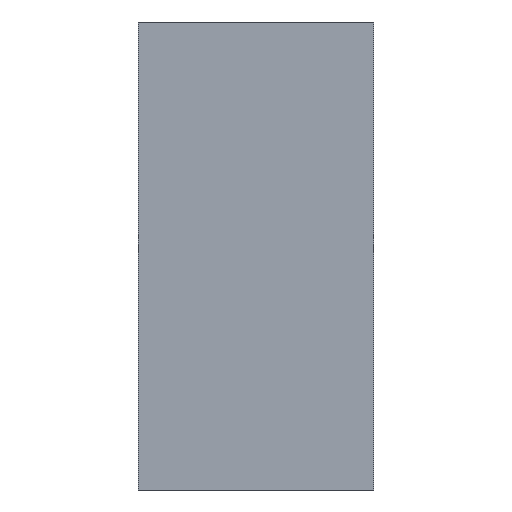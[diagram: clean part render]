
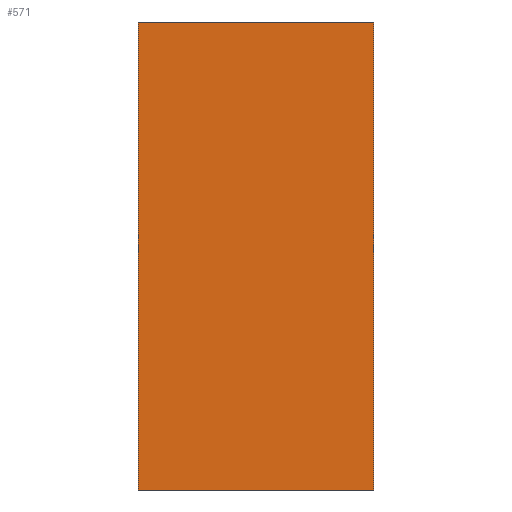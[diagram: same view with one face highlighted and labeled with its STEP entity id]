
A CAD part, left-side view. The second image highlights one B-rep face of the part: STEP entity #571.
In plain terms, the highlighted planar face has unit normal (-1, 0, 0).
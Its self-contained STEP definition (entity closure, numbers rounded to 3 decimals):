
#31=FACE_OUTER_BOUND('',#63,.T.);
#63=EDGE_LOOP('',(#405,#406,#407,#408));
#100=LINE('',#809,#172);
#106=LINE('',#820,#178);
#115=LINE('',#837,#187);
#116=LINE('',#839,#188);
#172=VECTOR('',#665,1.27);
#178=VECTOR('',#675,0.64);
#187=VECTOR('',#690,1.27);
#188=VECTOR('',#693,0.64);
#239=VERTEX_POINT('',#807);
#240=VERTEX_POINT('',#808);
#243=VERTEX_POINT('',#819);
#248=VERTEX_POINT('',#835);
#292=EDGE_CURVE('',#239,#240,#100,.T.);
#298=EDGE_CURVE('',#243,#239,#106,.T.);
#307=EDGE_CURVE('',#243,#248,#115,.T.);
#308=EDGE_CURVE('',#240,#248,#116,.T.);
#405=ORIENTED_EDGE('',*,*,#307,.T.);
#406=ORIENTED_EDGE('',*,*,#308,.F.);
#407=ORIENTED_EDGE('',*,*,#292,.F.);
#408=ORIENTED_EDGE('',*,*,#298,.F.);
#503=PLANE('',#608);
#571=ADVANCED_FACE('',(#31),#503,.T.);
#608=AXIS2_PLACEMENT_3D('',#838,#691,#692);
#665=DIRECTION('',(0.,0.,1.));
#675=DIRECTION('',(0.,1.,0.));
#690=DIRECTION('',(0.,0.,1.));
#691=DIRECTION('center_axis',(-1.,0.,0.));
#692=DIRECTION('ref_axis',(0.,-1.,0.));
#693=DIRECTION('',(0.,-1.,0.));
#807=CARTESIAN_POINT('',(-0.014,0.626,-0.014));
#808=CARTESIAN_POINT('',(-0.014,0.626,1.256));
#809=CARTESIAN_POINT('',(-0.014,0.626,1.242));
#819=CARTESIAN_POINT('',(-0.014,-0.014,-0.014));
#820=CARTESIAN_POINT('',(-0.014,0.,-0.014));
#835=CARTESIAN_POINT('',(-0.014,-0.014,1.256));
#837=CARTESIAN_POINT('',(-0.014,-0.014,1.242));
#838=CARTESIAN_POINT('Origin',(-0.014,0.,1.242));
#839=CARTESIAN_POINT('',(-0.014,0.626,1.256));
